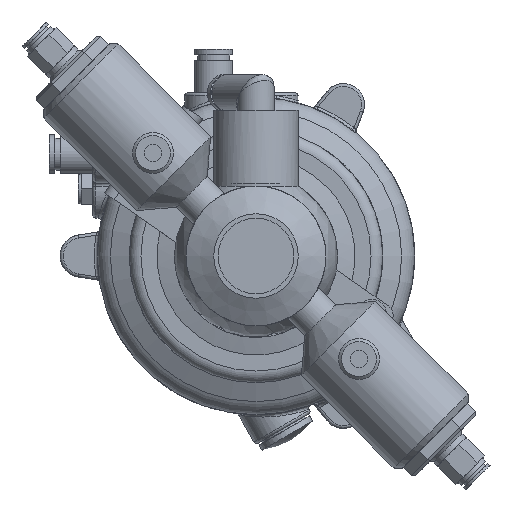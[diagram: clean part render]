
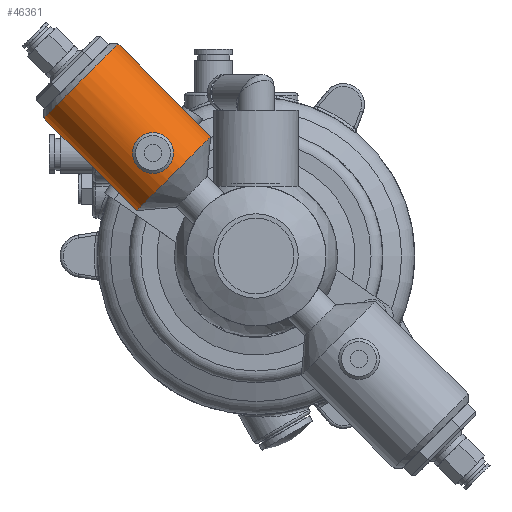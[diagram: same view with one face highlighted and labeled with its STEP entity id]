
A CAD part, front view. The second image highlights one B-rep face of the part: STEP entity #46361.
In plain terms, the highlighted cylindrical face has radius 18 mm (diameter 36 mm), a full revolution.
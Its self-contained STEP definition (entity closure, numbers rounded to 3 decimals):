
#55 = CARTESIAN_POINT ( 'NONE',  ( 12.021, -25., 12.021 ) ) ;
#1293 = CARTESIAN_POINT ( 'NONE',  ( 32.381, -42.428, 38.745 ) ) ;
#3196 = CARTESIAN_POINT ( 'NONE',  ( 34.772, -42.79, 30.884 ) ) ;
#3497 = CARTESIAN_POINT ( 'NONE',  ( 39.627, -42.541, 33.911 ) ) ;
#3822 = CARTESIAN_POINT ( 'NONE',  ( 38.325, -43., 38.749 ) ) ;
#4145 = CARTESIAN_POINT ( 'NONE',  ( 35.947, -42.641, 30.885 ) ) ;
#4927 = CARTESIAN_POINT ( 'NONE',  ( 60.104, -25., 60.104 ) ) ;
#5431 = FACE_OUTER_BOUND ( 'NONE', #23514, .T. ) ;
#6704 = CARTESIAN_POINT ( 'NONE',  ( 33.103, -42.465, 39.262 ) ) ;
#7641 = CARTESIAN_POINT ( 'NONE',  ( 30.884, -42.791, 34.767 ) ) ;
#7956 = CARTESIAN_POINT ( 'NONE',  ( 36.797, -42.89, 39.628 ) ) ;
#8279 = CARTESIAN_POINT ( 'NONE',  ( 38.332, -42.428, 31.968 ) ) ;
#8564 = CARTESIAN_POINT ( 'NONE',  ( 30.855, -42.754, 35.059 ) ) ;
#8868 = CARTESIAN_POINT ( 'NONE',  ( 36.803, -42.54, 31.084 ) ) ;
#9159 = CIRCLE ( 'NONE', #29273, 18. ) ;
#9854 = DIRECTION ( 'NONE',  ( -0.707, 0., -0.707 ) ) ;
#10885 = ORIENTED_EDGE ( 'NONE', *, *, #48629, .T. ) ;
#11399 = CARTESIAN_POINT ( 'NONE',  ( 31.774, -42.436, 38.096 ) ) ;
#12349 = CARTESIAN_POINT ( 'NONE',  ( 31.449, -42.964, 33.102 ) ) ;
#12661 = CARTESIAN_POINT ( 'NONE',  ( 30.855, -42.717, 35.355 ) ) ;
#12902 = EDGE_LOOP ( 'NONE', ( #25292 ) ) ;
#12992 = CARTESIAN_POINT ( 'NONE',  ( 39.404, -42.487, 33.369 ) ) ;
#13163 = DIRECTION ( 'NONE',  ( 0.707, 0., -0.707 ) ) ;
#13590 = CARTESIAN_POINT ( 'NONE',  ( 39.855, -42.754, 35.649 ) ) ;
#13644 = DIRECTION ( 'NONE',  ( -0.707, 0., 0.707 ) ) ;
#14361 = ORIENTED_EDGE ( 'NONE', *, *, #26762, .F. ) ;
#17104 = CARTESIAN_POINT ( 'NONE',  ( 31.965, -42.428, 38.329 ) ) ;
#17718 = CARTESIAN_POINT ( 'NONE',  ( 31.779, -42.993, 32.608 ) ) ;
#18014 = CIRCLE ( 'NONE', #62451, 18. ) ;
#18036 = CARTESIAN_POINT ( 'NONE',  ( 38.933, -42.993, 38.1 ) ) ;
#18351 = CARTESIAN_POINT ( 'NONE',  ( 35.651, -42.679, 30.855 ) ) ;
#18423 = CYLINDRICAL_SURFACE ( 'NONE', #23959, 18. ) ;
#19940 = VERTEX_POINT ( 'NONE', #24671 ) ;
#21838 = CARTESIAN_POINT ( 'NONE',  ( 31.309, -42.487, 37.347 ) ) ;
#22169 = CARTESIAN_POINT ( 'NONE',  ( 37.61, -42.465, 31.45 ) ) ;
#22474 = CARTESIAN_POINT ( 'NONE',  ( 31.968, -43., 32.379 ) ) ;
#22522 = CARTESIAN_POINT ( 'NONE',  ( 72.832, -25., 47.376 ) ) ;
#23102 = CARTESIAN_POINT ( 'NONE',  ( 37.607, -42.964, 39.263 ) ) ;
#23270 = DIRECTION ( 'NONE',  ( -0.707, 0., -0.707 ) ) ;
#23413 = CARTESIAN_POINT ( 'NONE',  ( 39.402, -42.943, 37.346 ) ) ;
#23461 = DIRECTION ( 'NONE',  ( -0.707, 0., -0.707 ) ) ;
#23514 = EDGE_LOOP ( 'NONE', ( #10885 ) ) ;
#23959 = AXIS2_PLACEMENT_3D ( 'NONE', #55, #9854, #24092 ) ;
#24092 = DIRECTION ( 'NONE',  ( -0.707, 0., 0.707 ) ) ;
#24671 = CARTESIAN_POINT ( 'NONE',  ( 30.855, -42.717, 35.355 ) ) ;
#25292 = ORIENTED_EDGE ( 'NONE', *, *, #60120, .T. ) ;
#25928 = CARTESIAN_POINT ( 'NONE',  ( 34.769, -42.642, 39.827 ) ) ;
#26565 = CARTESIAN_POINT ( 'NONE',  ( 30.855, -42.717, 35.355 ) ) ;
#26762 = EDGE_CURVE ( 'NONE', #42846, #42846, #9159, .T. ) ;
#27192 = CARTESIAN_POINT ( 'NONE',  ( 38.747, -43., 38.328 ) ) ;
#27495 = CARTESIAN_POINT ( 'NONE',  ( 35.646, -42.753, 39.855 ) ) ;
#28111 = CARTESIAN_POINT ( 'NONE',  ( 36.52, -42.572, 30.999 ) ) ;
#29273 = AXIS2_PLACEMENT_3D ( 'NONE', #61434, #23461, #13644 ) ;
#30014 = CARTESIAN_POINT ( 'NONE',  ( 31.084, -42.54, 36.802 ) ) ;
#30352 = CARTESIAN_POINT ( 'NONE',  ( 33.907, -42.54, 39.626 ) ) ;
#31602 = CARTESIAN_POINT ( 'NONE',  ( 37.344, -42.943, 39.403 ) ) ;
#31909 = CARTESIAN_POINT ( 'NONE',  ( 39.827, -42.642, 34.773 ) ) ;
#32225 = CARTESIAN_POINT ( 'NONE',  ( 30.999, -42.86, 34.19 ) ) ;
#32834 = CARTESIAN_POINT ( 'NONE',  ( 38.749, -42.429, 32.386 ) ) ;
#35067 = CARTESIAN_POINT ( 'NONE',  ( 30.998, -42.573, 36.516 ) ) ;
#35765 = VERTEX_POINT ( 'NONE', #22522 ) ;
#36336 = CARTESIAN_POINT ( 'NONE',  ( 32.384, -43., 31.963 ) ) ;
#36969 = CARTESIAN_POINT ( 'NONE',  ( 31.31, -42.944, 33.362 ) ) ;
#37296 = CARTESIAN_POINT ( 'NONE',  ( 39.826, -42.791, 35.945 ) ) ;
#37605 = CARTESIAN_POINT ( 'NONE',  ( 36.517, -42.859, 39.713 ) ) ;
#39417 = B_SPLINE_CURVE_WITH_KNOTS ( 'NONE', 3,
 ( #26565, #44574, #45799, #35067, #30014, #21838, #54706, #11399, #17104, #1293, #59159, #6704, #54383, #30352, #49647, #25928, #47051, #27495, #61379, #37605, #7956, #31602, #23102, #56916, #3822, #27192, #18036, #46752, #23413, #42357, #46454, #37296, #13590, #56289, #31909, #50898, #3497, #12992, #56608, #47381, #32834, #8279, #46117, #22169, #52148, #8868, #28111, #4145, #18351, #60749, #3196, #41730, #61701, #61055, #42656, #62008, #36336, #22474, #17718, #12349, #36969, #55676, #32225, #7641, #8564, #12661 ),
 .UNSPECIFIED., .T., .F.,
 ( 4, 2, 2, 2, 2, 2, 2, 2, 2, 2, 2, 2, 2, 2, 2, 2, 2, 2, 2, 2, 2, 2, 2, 2, 2, 2, 2, 2, 2, 2, 2, 2, 4 ),
 ( 0., 0.001, 0.002, 0.003, 0.004, 0.004, 0.005, 0.006, 0.007, 0.008, 0.009, 0.01, 0.011, 0.011, 0.012, 0.013, 0.014, 0.015, 0.016, 0.017, 0.018, 0.019, 0.019, 0.02, 0.021, 0.022, 0.023, 0.024, 0.025, 0.026, 0.026, 0.027, 0.028 ),
 .UNSPECIFIED. ) ;
#41730 = CARTESIAN_POINT ( 'NONE',  ( 34.197, -42.859, 30.997 ) ) ;
#42357 = CARTESIAN_POINT ( 'NONE',  ( 39.627, -42.891, 36.802 ) ) ;
#42656 = CARTESIAN_POINT ( 'NONE',  ( 33.109, -42.964, 31.445 ) ) ;
#42846 = VERTEX_POINT ( 'NONE', #57103 ) ;
#44574 = CARTESIAN_POINT ( 'NONE',  ( 30.855, -42.679, 35.651 ) ) ;
#45799 = CARTESIAN_POINT ( 'NONE',  ( 30.884, -42.642, 35.943 ) ) ;
#46117 = CARTESIAN_POINT ( 'NONE',  ( 38.1, -42.436, 31.777 ) ) ;
#46361 = ADVANCED_FACE ( 'NONE', ( #57913, #5431, #57287 ), #18423, .T. ) ;
#46454 = CARTESIAN_POINT ( 'NONE',  ( 39.711, -42.86, 36.522 ) ) ;
#46752 = CARTESIAN_POINT ( 'NONE',  ( 39.26, -42.965, 37.611 ) ) ;
#47051 = CARTESIAN_POINT ( 'NONE',  ( 35.06, -42.679, 39.855 ) ) ;
#47381 = CARTESIAN_POINT ( 'NONE',  ( 38.936, -42.436, 32.613 ) ) ;
#48629 = EDGE_CURVE ( 'NONE', #35765, #35765, #18014, .T. ) ;
#49647 = CARTESIAN_POINT ( 'NONE',  ( 34.191, -42.572, 39.712 ) ) ;
#50898 = CARTESIAN_POINT ( 'NONE',  ( 39.712, -42.572, 34.192 ) ) ;
#52148 = CARTESIAN_POINT ( 'NONE',  ( 37.351, -42.486, 31.311 ) ) ;
#54383 = CARTESIAN_POINT ( 'NONE',  ( 33.365, -42.487, 39.402 ) ) ;
#54706 = CARTESIAN_POINT ( 'NONE',  ( 31.447, -42.465, 37.605 ) ) ;
#55676 = CARTESIAN_POINT ( 'NONE',  ( 31.086, -42.891, 33.904 ) ) ;
#56289 = CARTESIAN_POINT ( 'NONE',  ( 39.855, -42.68, 35.065 ) ) ;
#56608 = CARTESIAN_POINT ( 'NONE',  ( 39.264, -42.465, 33.105 ) ) ;
#56916 = CARTESIAN_POINT ( 'NONE',  ( 38.096, -42.992, 38.937 ) ) ;
#57103 = CARTESIAN_POINT ( 'NONE',  ( 15.556, -25., 41.012 ) ) ;
#57287 = FACE_BOUND ( 'NONE', #12902, .T. ) ;
#57913 = FACE_OUTER_BOUND ( 'NONE', #61909, .T. ) ;
#59159 = CARTESIAN_POINT ( 'NONE',  ( 32.609, -42.436, 38.932 ) ) ;
#60120 = EDGE_CURVE ( 'NONE', #19940, #19940, #39417, .T. ) ;
#60749 = CARTESIAN_POINT ( 'NONE',  ( 35.063, -42.754, 30.855 ) ) ;
#61055 = CARTESIAN_POINT ( 'NONE',  ( 33.368, -42.943, 31.307 ) ) ;
#61379 = CARTESIAN_POINT ( 'NONE',  ( 35.943, -42.791, 39.826 ) ) ;
#61434 = CARTESIAN_POINT ( 'NONE',  ( 28.284, -25., 28.284 ) ) ;
#61701 = CARTESIAN_POINT ( 'NONE',  ( 33.911, -42.891, 31.083 ) ) ;
#61909 = EDGE_LOOP ( 'NONE', ( #14361 ) ) ;
#62008 = CARTESIAN_POINT ( 'NONE',  ( 32.616, -42.992, 31.773 ) ) ;
#62451 = AXIS2_PLACEMENT_3D ( 'NONE', #4927, #23270, #13163 ) ;
